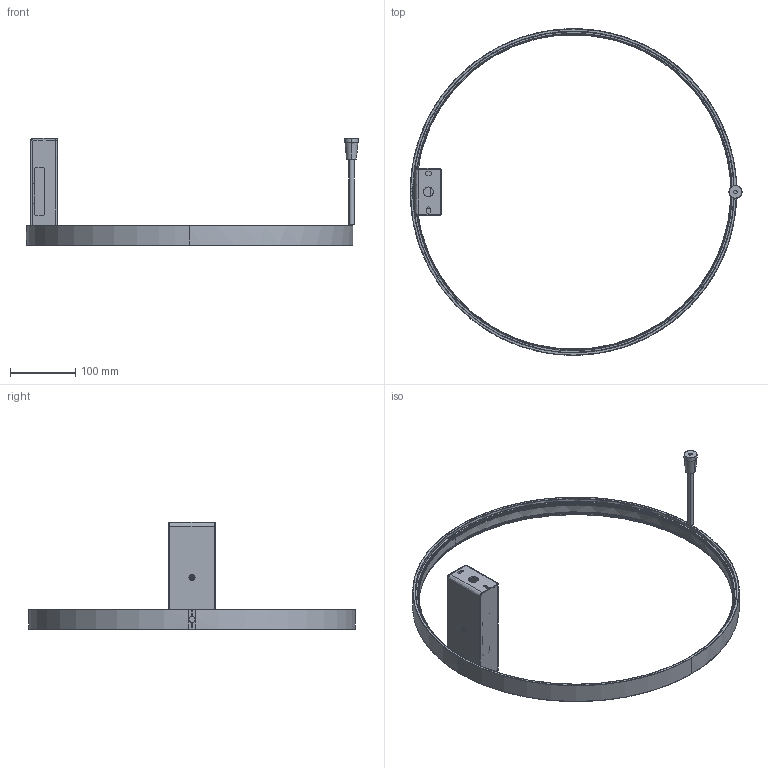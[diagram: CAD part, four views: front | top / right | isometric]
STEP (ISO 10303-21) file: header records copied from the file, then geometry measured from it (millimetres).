
FILE_DESCRIPTION(/* description */ (''),/* implementation_level */ '2;1');
FILE_NAME(/* name */ 'Zero Round P153__.050',/* time_stamp */ '2025-05-28T10:08:50+02:00',/* author */ (''),/* organization */ (''),/* preprocessor_version */ 'ST-DEVELOPER v16.5',/* originating_system */ '',/* authorisation */ '');
FILE_SCHEMA (('AUTOMOTIVE_DESIGN'));
Length unit declared in the file: millimetre
Products named in the file (10): Document; 3300.0300000.00 (profilo curvo Zero Round plafoniera ALL 7,7x30mm D e
st. 500mm)_3306.0300360.00; 3100.0025000.00 (schermo estruso Giplast 09PE79 PC 19x3,8mm per curva
 D int. 482mm)_3101.0025360.98; 3200.0514000.00 (scatola alimentazione con staffa e squadretta ACC 71
,5x43mm)_3210.0514016.00; 3200.0512000.00 (staffa scatola alimentazione ACC 69x74x18,2mm sp 1,2
)_3209.0512000.00; 3200.0509000.00 (scatola alimentazione ACC 71,5x43mm sp 1,2)_3209.050
9016.00; 3200.0513000.00 (squadretta scatola alimentazione ACC 50x22,6mm sp 2)
_3209.0513001.00; 3200.0508000.00 (staffa di fissaggio a plafone ACC 68,9x39,2mm sp 2,5
)_3209.0508014.00; socket countersunk head screw_iso_ISO 10642 - M4 x 8 - 8N; 5401.0031000.00 (molla in nastro sagomata ACC INOX 10x31x5mm sp 0,4)_
5401.0031000.00
Assembly tree (9 placements, depth 3):
  Document
    3300.0300000.00 (profilo curvo Zero Round plafoniera ALL 7,7x30mm D e
st. 500mm)_3306.0300360.00
    3100.0025000.00 (schermo estruso Giplast 09PE79 PC 19x3,8mm per curva
 D int. 482mm)_3101.0025360.98
    3200.0514000.00 (scatola alimentazione con staffa e squadretta ACC 71
,5x43mm)_3210.0514016.00
      3200.0512000.00 (staffa scatola alimentazione ACC 69x74x18,2mm sp 1,2
)_3209.0512000.00
      3200.0509000.00 (scatola alimentazione ACC 71,5x43mm sp 1,2)_3209.050
9016.00
      3200.0513000.00 (squadretta scatola alimentazione ACC 50x22,6mm sp 2)
_3209.0513001.00
    3200.0508000.00 (staffa di fissaggio a plafone ACC 68,9x39,2mm sp 2,5
)_3209.0508014.00
    socket countersunk head screw_iso_ISO 10642 - M4 x 8 - 8N
    5401.0031000.00 (molla in nastro sagomata ACC INOX 10x31x5mm sp 0,4)_
5401.0031000.00
Bounding box: 508.39 x 500 x 163.95 mm (x, y, z)
Volume: 328344.1 mm3; surface area: 307445.2 mm2
Topology: 10 solids, 10 shells, 485 faces, 1189 edges, 720 vertices
Faces by surface type: bspline 298, plane 187
Entity records: 22822 total; most frequent: CARTESIAN_POINT 15554, ORIENTED_EDGE 2366, EDGE_CURVE 1183, VERTEX_POINT 720, B_SPLINE_CURVE_WITH_KNOTS 622, EDGE_LOOP 509, ADVANCED_FACE 485, FACE_OUTER_BOUND 485
